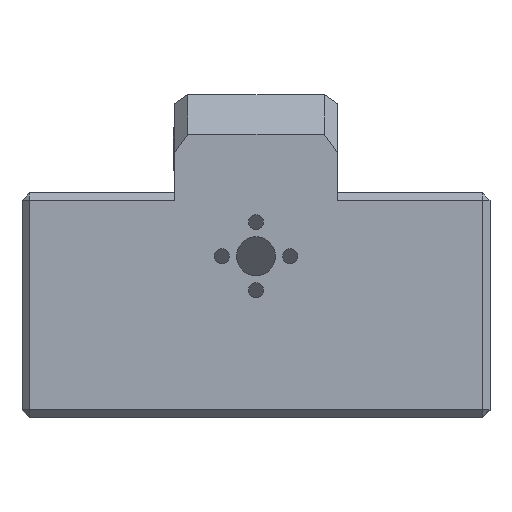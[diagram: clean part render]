
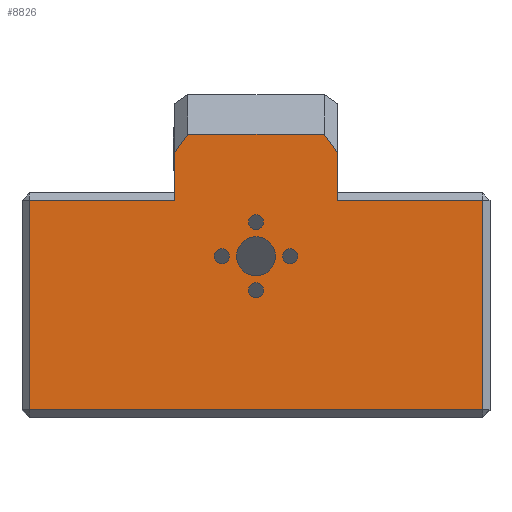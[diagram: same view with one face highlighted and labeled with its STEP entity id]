
A CAD part, top view. The second image highlights one B-rep face of the part: STEP entity #8826.
In plain terms, the highlighted planar face has unit normal (0, 0, 1).
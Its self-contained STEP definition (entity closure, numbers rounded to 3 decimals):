
#233=FACE_BOUND('',#1199,.T.);
#234=FACE_BOUND('',#1200,.T.);
#235=FACE_BOUND('',#1201,.T.);
#236=FACE_BOUND('',#1202,.T.);
#237=FACE_BOUND('',#1203,.T.);
#339=CIRCLE('',#9392,1.55);
#340=CIRCLE('',#9393,1.55);
#341=CIRCLE('',#9394,1.55);
#342=CIRCLE('',#9395,1.55);
#343=CIRCLE('',#9396,4.);
#689=FACE_OUTER_BOUND('',#1198,.T.);
#1198=EDGE_LOOP('',(#6313,#6314,#6315,#6316,#6317,#6318,#6319,#6320,#6321,
#6322));
#1199=EDGE_LOOP('',(#6323));
#1200=EDGE_LOOP('',(#6324));
#1201=EDGE_LOOP('',(#6325));
#1202=EDGE_LOOP('',(#6326));
#1203=EDGE_LOOP('',(#6327));
#1871=LINE('',#13095,#2842);
#1896=LINE('',#13172,#2867);
#1899=LINE('',#13178,#2870);
#1907=LINE('',#13252,#2878);
#1908=LINE('',#13253,#2879);
#1909=LINE('',#13255,#2880);
#1910=LINE('',#13256,#2881);
#1911=LINE('',#13258,#2882);
#1912=LINE('',#13260,#2883);
#1913=LINE('',#13261,#2884);
#2842=VECTOR('',#10480,10.);
#2867=VECTOR('',#10551,10.);
#2870=VECTOR('',#10556,10.);
#2878=VECTOR('',#10570,10.);
#2879=VECTOR('',#10571,10.);
#2880=VECTOR('',#10572,10.);
#2881=VECTOR('',#10573,10.);
#2882=VECTOR('',#10574,10.);
#2883=VECTOR('',#10575,10.);
#2884=VECTOR('',#10576,10.);
#3837=VERTEX_POINT('',#13093);
#3838=VERTEX_POINT('',#13094);
#3866=VERTEX_POINT('',#13169);
#3867=VERTEX_POINT('',#13171);
#3868=VERTEX_POINT('',#13175);
#3869=VERTEX_POINT('',#13177);
#3886=VERTEX_POINT('',#13251);
#3887=VERTEX_POINT('',#13254);
#3888=VERTEX_POINT('',#13257);
#3889=VERTEX_POINT('',#13259);
#3890=VERTEX_POINT('',#13262);
#3891=VERTEX_POINT('',#13264);
#3892=VERTEX_POINT('',#13266);
#3893=VERTEX_POINT('',#13268);
#3894=VERTEX_POINT('',#13270);
#4753=EDGE_CURVE('',#3837,#3838,#1871,.T.);
#4792=EDGE_CURVE('',#3866,#3867,#1896,.T.);
#4795=EDGE_CURVE('',#3868,#3869,#1899,.T.);
#4814=EDGE_CURVE('',#3886,#3868,#1907,.T.);
#4815=EDGE_CURVE('',#3838,#3886,#1908,.T.);
#4816=EDGE_CURVE('',#3887,#3837,#1909,.T.);
#4817=EDGE_CURVE('',#3867,#3887,#1910,.T.);
#4818=EDGE_CURVE('',#3888,#3866,#1911,.T.);
#4819=EDGE_CURVE('',#3889,#3888,#1912,.T.);
#4820=EDGE_CURVE('',#3869,#3889,#1913,.T.);
#4821=EDGE_CURVE('',#3890,#3890,#339,.T.);
#4822=EDGE_CURVE('',#3891,#3891,#340,.T.);
#4823=EDGE_CURVE('',#3892,#3892,#341,.T.);
#4824=EDGE_CURVE('',#3893,#3893,#342,.T.);
#4825=EDGE_CURVE('',#3894,#3894,#343,.T.);
#6313=ORIENTED_EDGE('',*,*,#4814,.F.);
#6314=ORIENTED_EDGE('',*,*,#4815,.F.);
#6315=ORIENTED_EDGE('',*,*,#4753,.F.);
#6316=ORIENTED_EDGE('',*,*,#4816,.F.);
#6317=ORIENTED_EDGE('',*,*,#4817,.F.);
#6318=ORIENTED_EDGE('',*,*,#4792,.F.);
#6319=ORIENTED_EDGE('',*,*,#4818,.F.);
#6320=ORIENTED_EDGE('',*,*,#4819,.F.);
#6321=ORIENTED_EDGE('',*,*,#4820,.F.);
#6322=ORIENTED_EDGE('',*,*,#4795,.F.);
#6323=ORIENTED_EDGE('',*,*,#4821,.T.);
#6324=ORIENTED_EDGE('',*,*,#4822,.T.);
#6325=ORIENTED_EDGE('',*,*,#4823,.T.);
#6326=ORIENTED_EDGE('',*,*,#4824,.T.);
#6327=ORIENTED_EDGE('',*,*,#4825,.T.);
#8518=PLANE('',#9391);
#8826=ADVANCED_FACE('',(#689,#233,#234,#235,#236,#237),#8518,.T.);
#9391=AXIS2_PLACEMENT_3D('',#13250,#10568,#10569);
#9392=AXIS2_PLACEMENT_3D('',#13263,#10577,#10578);
#9393=AXIS2_PLACEMENT_3D('',#13265,#10579,#10580);
#9394=AXIS2_PLACEMENT_3D('',#13267,#10581,#10582);
#9395=AXIS2_PLACEMENT_3D('',#13269,#10583,#10584);
#9396=AXIS2_PLACEMENT_3D('',#13271,#10585,#10586);
#10480=DIRECTION('',(-1.,0.,0.));
#10551=DIRECTION('',(0.,-1.,0.));
#10556=DIRECTION('',(0.,1.,0.));
#10568=DIRECTION('center_axis',(0.,0.,1.));
#10569=DIRECTION('ref_axis',(1.,0.,0.));
#10570=DIRECTION('',(1.,0.,0.));
#10571=DIRECTION('',(0.,1.,0.));
#10572=DIRECTION('',(0.,-1.,0.));
#10573=DIRECTION('',(1.,0.,0.));
#10574=DIRECTION('',(0.577,-0.816,0.));
#10575=DIRECTION('',(1.,0.,0.));
#10576=DIRECTION('',(0.577,0.816,0.));
#10577=DIRECTION('center_axis',(0.,0.,-1.));
#10578=DIRECTION('ref_axis',(-1.,0.,0.));
#10579=DIRECTION('center_axis',(0.,0.,-1.));
#10580=DIRECTION('ref_axis',(-1.,0.,0.));
#10581=DIRECTION('center_axis',(0.,0.,-1.));
#10582=DIRECTION('ref_axis',(-1.,0.,0.));
#10583=DIRECTION('center_axis',(0.,0.,-1.));
#10584=DIRECTION('ref_axis',(-1.,0.,0.));
#10585=DIRECTION('center_axis',(0.,0.,-1.));
#10586=DIRECTION('ref_axis',(-1.,0.,0.));
#13093=CARTESIAN_POINT('',(6.5,-21.5,25.));
#13094=CARTESIAN_POINT('',(-86.5,-21.5,25.));
#13095=CARTESIAN_POINT('',(-10.,-21.5,25.));
#13169=CARTESIAN_POINT('',(-23.3,31.182,25.));
#13171=CARTESIAN_POINT('',(-23.3,21.5,25.));
#13172=CARTESIAN_POINT('',(-23.3,10.355,25.));
#13175=CARTESIAN_POINT('',(-56.7,21.5,25.));
#13177=CARTESIAN_POINT('',(-56.7,31.182,25.));
#13178=CARTESIAN_POINT('',(-56.7,31.215,25.));
#13250=CARTESIAN_POINT('Origin',(-15.,-23.,25.));
#13251=CARTESIAN_POINT('',(-86.5,21.5,25.));
#13252=CARTESIAN_POINT('',(-10.,21.5,25.));
#13253=CARTESIAN_POINT('',(-86.5,-11.5,25.));
#13254=CARTESIAN_POINT('',(6.5,21.5,25.));
#13255=CARTESIAN_POINT('',(6.5,-11.5,25.));
#13256=CARTESIAN_POINT('',(-10.,21.5,25.));
#13257=CARTESIAN_POINT('',(-26.,35.,25.));
#13258=CARTESIAN_POINT('',(-29.216,39.547,25.));
#13259=CARTESIAN_POINT('',(-54.,35.,25.));
#13260=CARTESIAN_POINT('',(-42.35,35.,25.));
#13261=CARTESIAN_POINT('',(-55.451,32.948,25.));
#13262=CARTESIAN_POINT('',(-38.45,3.,25.));
#13263=CARTESIAN_POINT('Origin',(-40.,3.,25.));
#13264=CARTESIAN_POINT('',(-31.45,10.,25.));
#13265=CARTESIAN_POINT('Origin',(-33.,10.,25.));
#13266=CARTESIAN_POINT('',(-38.45,17.,25.));
#13267=CARTESIAN_POINT('Origin',(-40.,17.,25.));
#13268=CARTESIAN_POINT('',(-45.45,10.,25.));
#13269=CARTESIAN_POINT('Origin',(-47.,10.,25.));
#13270=CARTESIAN_POINT('',(-36.,10.,25.));
#13271=CARTESIAN_POINT('Origin',(-40.,10.,25.));
